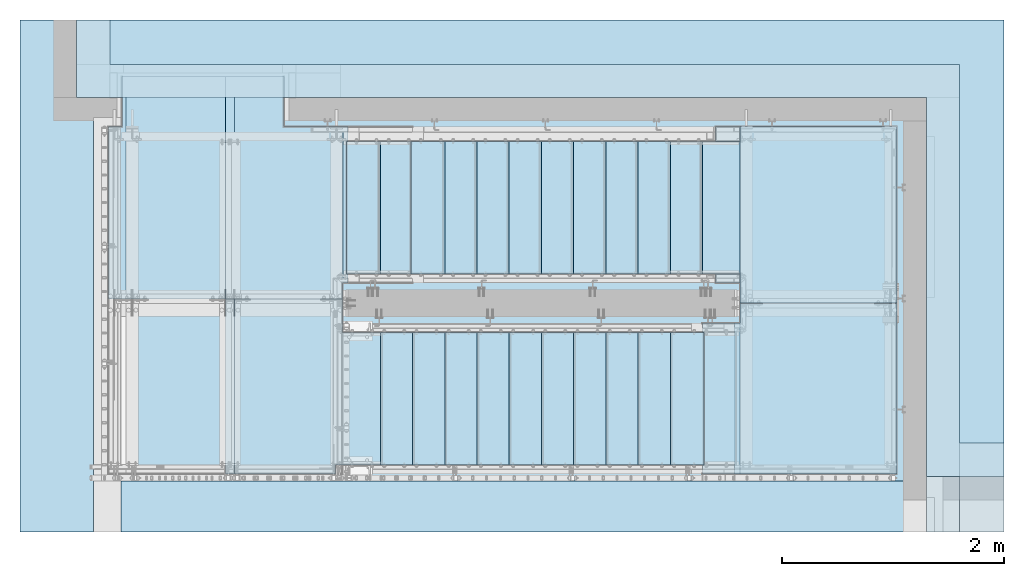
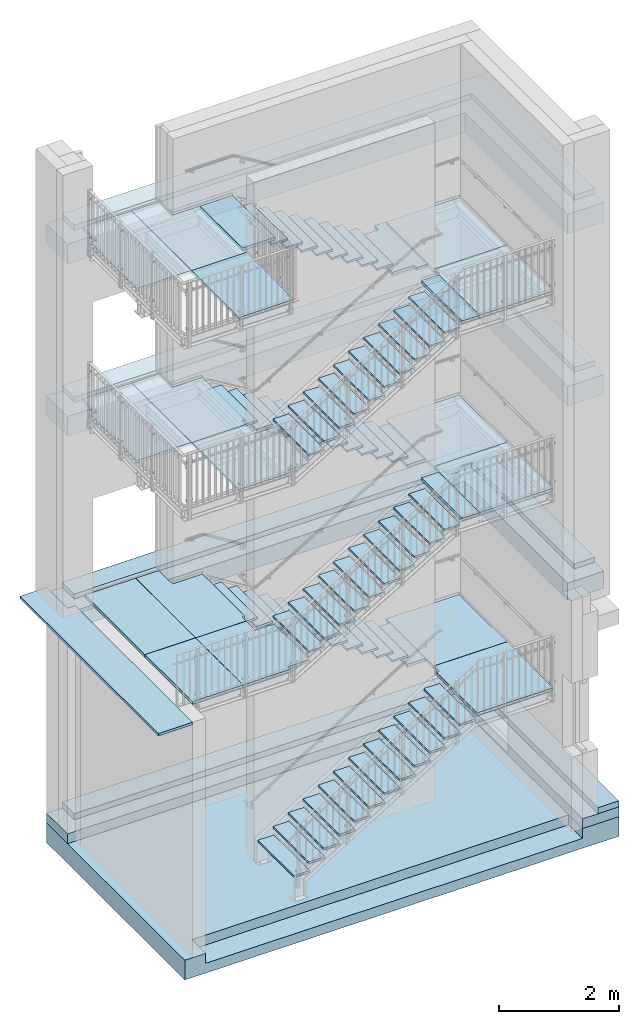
# One storey, part 49 of 410: 84 plates, 10 slabs, 16 openings.
"""IFC2X3 building model written with IfcOpenShell, lengths in millimetres."""

from ifc_helpers import new_model, entity, si_unit, converted_unit, frame, origin, origin_with_axes, place, context, project, spatial, polyline, outline, extrude, material, layer, layer_set, element, save


model = new_model("IFC2X3")

# Units and contexts
model_context = context("Model", 3, precision=1e-09, world=origin_with_axes())
ifc_project = project(units=[si_unit("LENGTHUNIT", "METRE", prefix="MILLI"), si_unit("AREAUNIT", "SQUARE_METRE"), si_unit("VOLUMEUNIT", "CUBIC_METRE"), converted_unit("PLANEANGLEUNIT", "DEGREE", entity("IfcPlaneAngleMeasure", 0.01745329), si_unit("PLANEANGLEUNIT", "RADIAN"), dimensions=[0, 0, 0, 0, 0, 0, 0])], contexts=[model_context])

# Site, building, storey
site_placement = place(None, origin_with_axes())
site = spatial("IfcSite", under=ifc_project, at=site_placement, Name="mKR Teilneubau & Sanierung BA1 - Ostfildern", CompositionType="ELEMENT")
building_placement = place(site_placement, origin_with_axes())
building = spatial("IfcBuilding", under=site, at=building_placement, Name="Struktur 1", CompositionType="ELEMENT")
storey_placement = place(building_placement, origin_with_axes())
storey = spatial("IfcBuildingStorey", under=building, at=storey_placement, Name="Default Storey", CompositionType="ELEMENT", Elevation=0.0)

# Plates
ifc_material_1 = material(Name="S235JR")
ifc_layer_1 = layer(ifc_material_1, 40.0)
ifc_layer_set_1 = layer_set([ifc_layer_1], Name="S235JR")
for number, where, z_axis, x_axis, name in (
    (1, (-697.5, 17839.999999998, 7110.0), (0.0, 0.0, 1.0), (0.0, -1.0, 0.0), "Grate_Step#1"),
    (2, (-407.5, 17839.999999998, 6935.0), (0.0, 0.0, 1.0), (0.0, -1.0, 0.0), "Grate_Step#1"),
    (3, (-117.5, 17839.999999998, 6760.0), (0.0, 0.0, 1.0), (0.0, -1.0, 0.0), "Grate_Step#1"),
    (4, (172.5, 17839.999999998, 6585.0), (0.0, 0.0, 1.0), (0.0, -1.0, 0.0), "Grate_Step#1"),
    (5, (462.5, 17839.999999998, 6410.0), (0.0, 0.0, 1.0), (0.0, -1.0, 0.0), "Grate_Step#1"),
    (6, (752.5, 17839.999999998, 6235.0), (0.0, 0.0, 1.0), (0.0, -1.0, 0.0), "Grate_Step#1"),
    (7, (1042.5, 17839.999999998, 6060.0), (0.0, 0.0, 1.0), (0.0, -1.0, 0.0), "Grate_Step#1"),
    (8, (1332.5, 17839.999999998, 2046.956522), (0.0, 0.0, 1.0), (0.0, -1.0, 0.0), "Grate_Step#1"),
    (9, (1042.5, 17839.999999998, 2220.8695655), (0.0, 0.0, 1.0), (0.0, -1.0, 0.0), "Grate_Step#1"),
    (10, (752.5, 17839.999999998, 2394.782609), (0.0, 0.0, 1.0), (0.0, -1.0, 0.0), "Grate_Step#1"),
    (11, (462.5, 17839.999999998, 2568.6956525), (0.0, 0.0, 1.0), (0.0, -1.0, 0.0), "Grate_Step#1"),
    (12, (172.5, 17839.999999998, 2742.608696), (0.0, 0.0, 1.0), (0.0, -1.0, 0.0), "Grate_Step#1"),
    (13, (-117.5, 17839.999999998, 2916.5217395), (0.0, 0.0, 1.0), (0.0, -1.0, 0.0), "Grate_Step#1"),
    (14, (-407.5, 17839.999999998, 3090.434783), (0.0, 0.0, 1.0), (0.0, -1.0, 0.0), "Grate_Step#1"),
    (15, (-697.5, 17839.999999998, 3264.3478265), (0.0, 0.0, 1.0), (0.0, -1.0, 0.0), "Grate_Step#1"),
    (16, (-987.5, 17839.999999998, 3438.26087), (0.0, 0.0, 1.0), (0.0, -1.0, 0.0), "Grate_Step#1"),
    (17, (-1277.5, 17839.999999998, 3612.1739135), (0.0, 0.0, 1.0), (0.0, -1.0, 0.0), "Grate_Step#1"),
    (18, (-1567.5, 17839.999999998, 3786.086957), (0.0, 0.0, 1.0), (0.0, -1.0, 0.0), "Grate_Step#1"),
    (19, (1332.5, 17839.999999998, -2006.8), (0.0, 0.0, 1.0), (0.0, -1.0, 0.0), "Grate_Step#1"),
    (20, (1042.5, 17839.999999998, -1828.0), (0.0, 0.0, 1.0), (0.0, -1.0, 0.0), "Grate_Step#1"),
    (21, (752.5, 17839.999999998, -1649.2), (0.0, 0.0, 1.0), (0.0, -1.0, 0.0), "Grate_Step#1"),
    (22, (462.5, 17839.999999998, -1470.4), (0.0, 0.0, 1.0), (0.0, -1.0, 0.0), "Grate_Step#1"),
    (23, (172.5, 17839.999999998, -1291.6), (0.0, 0.0, 1.0), (0.0, -1.0, 0.0), "Grate_Step#1"),
    (24, (-117.5, 17839.999999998, -1112.8), (0.0, 0.0, 1.0), (0.0, -1.0, 0.0), "Grate_Step#1"),
    (25, (-407.5, 17839.999999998, -934.0), (0.0, 0.0, 1.0), (0.0, -1.0, 0.0), "Grate_Step#1"),
    (26, (-697.5, 17839.999999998, -755.2), (0.0, 0.0, 1.0), (0.0, -1.0, 0.0), "Grate_Step#1"),
    (27, (-987.5, 17839.999999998, -576.4), (0.0, 0.0, 1.0), (0.0, -1.0, 0.0), "Grate_Step#1"),
    (28, (-1277.5, 17839.999999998, -397.6), (0.0, 0.0, 1.0), (0.0, -1.0, 0.0), "Grate_Step#1"),
    (29, (-1567.5, 17839.999999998, -218.8), (0.0, 0.0, 1.0), (0.0, -1.0, 0.0), "Grate_Step#1"),
    (30, (-1262.5, 16119.999999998, 4135.0), (0.0, 0.0, 1.0), (0.0, 1.0, 0.0), "Grate_Step#1"),
    (31, (-1262.5, 16119.999999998, 133.9130435), (0.0, 0.0, 1.0), (0.0, 1.0, 0.0), "Grate_Step#1"),
    (32, (-1552.5, 16119.999999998, -4331.2), (0.0, 0.0, 1.0), (0.0, 1.0, 0.0), "Grate_Step#1"),
    (33, (-1262.5, 16119.999999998, -4152.4), (0.0, 0.0, 1.0), (0.0, 1.0, 0.0), "Grate_Step#1"),
    (34, (-972.5, 16119.999999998, -3973.6), (0.0, 0.0, 1.0), (0.0, 1.0, 0.0), "Grate_Step#1"),
    (35, (-682.5, 16119.999999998, -3794.8), (0.0, 0.0, 1.0), (0.0, 1.0, 0.0), "Grate_Step#1"),
    (36, (-392.5, 16119.999999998, -3616.0), (0.0, 0.0, 1.0), (0.0, 1.0, 0.0), "Grate_Step#1"),
    (37, (-102.5, 16119.999999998, -3437.2), (0.0, 0.0, 1.0), (0.0, 1.0, 0.0), "Grate_Step#1"),
    (38, (187.5, 16119.999999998, -3258.4), (0.0, 0.0, 1.0), (0.0, 1.0, 0.0), "Grate_Step#1"),
    (39, (477.5, 16119.999999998, -3079.6), (0.0, 0.0, 1.0), (0.0, 1.0, 0.0), "Grate_Step#1"),
    (40, (767.5, 16119.999999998, -2900.8), (0.0, 0.0, 1.0), (0.0, 1.0, 0.0), "Grate_Step#1"),
    (41, (1057.5, 16119.999999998, -2722.0), (0.0, 0.0, 1.0), (0.0, 1.0, 0.0), "Grate_Step#1"),
    (42, (1347.5, 16119.999999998, -2543.2), (0.0, 0.0, 1.0), (0.0, 1.0, 0.0), "Grate_Step#1"),
    (43, (1637.5, 16119.999999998, -2364.4), (0.0, 0.0, 1.0), (0.0, 1.0, 0.0), "Grate_Step#1"),
    (44, (-972.5, 16119.999999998, 307.826087), (0.0, 0.0, 1.0), (0.0, 1.0, 0.0), "Grate_Step#1"),
    (45, (-682.5, 16119.999999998, 481.7391305), (0.0, 0.0, 1.0), (0.0, 1.0, 0.0), "Grate_Step#1"),
    (46, (-392.5, 16119.999999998, 655.652174), (0.0, 0.0, 1.0), (0.0, 1.0, 0.0), "Grate_Step#1"),
    (47, (-102.5, 16119.999999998, 829.5652175), (0.0, 0.0, 1.0), (0.0, 1.0, 0.0), "Grate_Step#1"),
    (48, (187.5, 16119.999999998, 1003.478261), (0.0, 0.0, 1.0), (0.0, 1.0, 0.0), "Grate_Step#1"),
    (49, (477.5, 16119.999999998, 1177.3913045), (0.0, 0.0, 1.0), (0.0, 1.0, 0.0), "Grate_Step#1"),
    (50, (767.5, 16119.999999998, 1351.304348), (0.0, 0.0, 1.0), (0.0, 1.0, 0.0), "Grate_Step#1"),
    (51, (1057.5, 16119.999999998, 1525.2173915), (0.0, 0.0, 1.0), (0.0, 1.0, 0.0), "Grate_Step#1"),
    (52, (1347.5, 16119.999999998, 1699.130435), (0.0, 0.0, 1.0), (0.0, 1.0, 0.0), "Grate_Step#1"),
    (53, (-972.5, 16119.999999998, 4310.0), (0.0, 0.0, 1.0), (0.0, 1.0, 0.0), "Grate_Step#1"),
    (54, (-682.5, 16119.999999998, 4485.0), (0.0, 0.0, 1.0), (0.0, 1.0, 0.0), "Grate_Step#1"),
    (55, (-392.5, 16119.999999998, 4660.0), (0.0, 0.0, 1.0), (0.0, 1.0, 0.0), "Grate_Step#1"),
    (56, (-102.5, 16119.999999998, 4835.0), (0.0, 0.0, 1.0), (0.0, 1.0, 0.0), "Grate_Step#1"),
    (57, (187.5, 16119.999999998, 5010.0), (0.0, 0.0, 1.0), (0.0, 1.0, 0.0), "Grate_Step#1"),
    (58, (477.5, 16119.999999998, 5185.0), (0.0, 0.0, 1.0), (0.0, 1.0, 0.0), "Grate_Step#1"),
    (59, (767.5, 16119.999999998, 5360.0), (0.0, 0.0, 1.0), (0.0, 1.0, 0.0), "Grate_Step#1"),
    (60, (1057.5, 16119.999999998, 5535.0), (0.0, 0.0, 1.0), (0.0, 1.0, 0.0), "Grate_Step#1"),
    (61, (1347.5, 16119.999999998, 5710.0), (0.0, 0.0, 1.0), (0.0, 1.0, 0.0), "Grate_Step#1"),
):
    element("IfcPlate", number, at=place(None, frame(where, z_axis=z_axis, x_axis=x_axis)), inside=storey, material=ifc_layer_set_1, Name=name, ObjectType="Grate_Step#1", context=model_context, shape_type="SweptSolid", body=[
        extrude(outline(polyline([(-597.0, -152.5), (597.0, -152.5), (597.0, 152.5), (-597.0, 152.5), (-597.0, -152.5)])), origin_with_axes(), (0.0, 0.0, 1.0), 40.0),
    ])
ifc_layer_2 = layer(ifc_material_1, 60.0)
ifc_layer_set_2 = layer_set([ifc_layer_2], Name="S235JR")
plate_1_placement = place(None, frame((2082.502202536, 16808.000000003, 1853.0434785), z_axis=(0.0, 0.0, 1.0), x_axis=(-1.0, 0.0, 0.0)))
element("IfcPlate", 62, at=plate_1_placement, inside=storey, material=ifc_layer_set_2, Name="Grating", ObjectType="Grating", context=model_context, shape_type="SweptSolid", body=[
    extrude(outline(polyline([(257.50073415, -1761.999999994), (257.50073415, -172.999999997), (-1152.49926585, -172.999999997), (-1152.49926585, -1761.999999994), (257.50073415, -1761.999999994)])), origin_with_axes(), (0.0, 0.0, 1.0), 60.0),
])
plate_2_placement = place(None, frame((2082.502202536, 16808.000000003, 1853.0434785), z_axis=(0.0, 0.0, 1.0), x_axis=(-1.0, 0.0, 0.0)))
element("IfcPlate", 63, at=plate_2_placement, inside=storey, material=ifc_layer_set_2, Name="Grating", ObjectType="Grating", context=model_context, shape_type="SweptSolid", body=[
    extrude(outline(polyline([(259.50073415, -1629.999999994), (612.502202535, -1629.999999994), (612.502202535, -433.999999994), (259.50073415, -433.999999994), (259.50073415, -1629.999999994)])), origin_with_axes(), (0.0, 0.0, 1.0), 60.0),
])
plate_3_placement = place(None, frame((2082.502202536, 16808.000000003, 5865.0), z_axis=(0.0, 0.0, 1.0), x_axis=(-1.0, 0.0, 0.0)))
element("IfcPlate", 64, at=plate_3_placement, inside=storey, material=ifc_layer_set_2, Name="Grating", ObjectType="Grating", context=model_context, shape_type="SweptSolid", body=[
    extrude(outline(polyline([(257.50073415, -1761.999999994), (257.50073415, -172.999999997), (-1152.49926585, -172.999999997), (-1152.49926585, -1761.999999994), (257.50073415, -1761.999999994)])), origin_with_axes(), (0.0, 0.0, 1.0), 60.0),
])

# Plate, openings
plate_4_placement = place(None, frame((2082.502202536, 16808.000000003, 5865.0), z_axis=(0.0, 0.0, 1.0), x_axis=(-1.0, 0.0, 0.0)))
plate_4 = element("IfcPlate", 65, at=plate_4_placement, inside=storey, material=ifc_layer_set_2, Name="Grating", ObjectType="Grating", context=model_context, shape_type="SweptSolid", body=[
    extrude(outline(polyline([(259.50073415, -1761.999999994), (902.502202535, -1761.999999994), (902.502202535, -351.999999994), (259.50073415, -351.999999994), (259.50073415, -1761.999999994)])), origin_with_axes(), (0.0, 0.0, 1.0), 60.0),
])
opening_1_placement = place(plate_4_placement, frame((0.0, 0.0, 60.1), z_axis=(0.0, 0.0, -1.0), x_axis=(0.0, -1.0, 0.0)))
element("IfcOpeningElement", 66, at=opening_1_placement, cuts=plate_4, ObjectType="Opening", context=model_context, shape_type="SweptSolid", body=[
    extrude(outline(polyline([(1629.998999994, -1022.709062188), (1985.312287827, -1022.709062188), (1985.312287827, -479.49973415), (1629.998999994, -479.49973415), (1629.998999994, -1022.709062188)])), origin(), (0.0, 0.0, 1.0), 60.2),
])
opening_2_placement = place(plate_4_placement, frame((0.0, 0.0, 60.1), z_axis=(0.0, 0.0, -1.0), x_axis=(0.0, -1.0, 0.0)))
element("IfcOpeningElement", 67, at=opening_2_placement, cuts=plate_4, ObjectType="Opening", context=model_context, shape_type="SweptSolid", body=[
    extrude(outline(polyline([(279.276158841, -1009.21293663), (434.000999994, -1009.21293663), (434.000999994, -479.49973415), (279.276158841, -479.49973415), (279.276158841, -1009.21293663)])), origin(), (0.0, 0.0, 1.0), 60.2),
])

# Plates
plate_5_placement = place(None, frame((2082.502202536, 16808.000000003, 5865.0), z_axis=(0.0, 0.0, 1.0), x_axis=(-1.0, 0.0, 0.0)))
element("IfcPlate", 68, at=plate_5_placement, inside=storey, material=ifc_layer_set_2, Name="Grating", ObjectType="Grating", context=model_context, shape_type="SweptSolid", body=[
    extrude(outline(polyline([(257.50073415, -170.999999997), (257.50073415, 1368.000000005), (-1152.49926585, 1368.000000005), (-1152.49926585, -170.999999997), (257.50073415, -170.999999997)])), origin_with_axes(), (0.0, 0.0, 1.0), 60.0),
])
plate_6_placement = place(None, frame((2082.502202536, 16808.000000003, 5865.0), z_axis=(0.0, 0.0, 1.0), x_axis=(-1.0, 0.0, 0.0)))
element("IfcPlate", 69, at=plate_6_placement, inside=storey, material=ifc_layer_set_2, Name="Grating", ObjectType="Grating", context=model_context, shape_type="SweptSolid", body=[
    extrude(outline(polyline([(259.50073415, 8.000000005), (597.502202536, 8.000000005), (597.502202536, 1368.000000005), (259.50073415, 1368.000000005), (259.50073415, 8.000000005)])), origin_with_axes(), (0.0, 0.0, 1.0), 60.0),
])
plate_7_placement = place(None, frame((-2552.49926585, 17229.999999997, 3940.0), z_axis=(0.0, 0.0, 1.0), x_axis=(1.0, 0.0, 0.0)))
element("IfcPlate", 70, at=plate_7_placement, inside=storey, material=ifc_layer_set_2, Name="Grating", ObjectType="Grating", context=model_context, shape_type="SweptSolid", body=[
    extrude(outline(polyline([(-256.49926585, -1789.999999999), (732.449155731, -1789.999999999), (732.449155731, -1707.998999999), (1152.49926585, -1707.998999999), (1152.49926585, -512.000999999), (797.49973415, -512.000999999), (797.49973415, -211.999999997), (-256.49926585, -211.999999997), (-256.49926585, -1789.999999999)])), origin_with_axes(), (0.0, 0.0, 1.0), 60.0),
])
plate_8_placement = place(None, frame((-2552.49926585, 17229.999999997, 3940.0), z_axis=(0.0, 0.0, 1.0), x_axis=(1.0, 0.0, 0.0)))
element("IfcPlate", 71, at=plate_8_placement, inside=storey, material=ifc_layer_set_2, Name="Grating", ObjectType="Grating", context=model_context, shape_type="SweptSolid", body=[
    extrude(outline(polyline([(-256.49926585, 1789.999999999), (-256.49926585, -209.999999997), (797.49973415, -209.999999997), (797.49973415, -69.998999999), (847.49926585, -69.998999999), (847.49926585, 1339.998999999), (270.00073415, 1339.998999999), (270.00073415, 1789.999999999), (-256.49926585, 1789.999999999)])), origin_with_axes(), (0.0, 0.0, 1.0), 60.0),
])

# Plate, opening
plate_9_placement = place(None, frame((-2712.49926585, 17229.999999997, 3940.0), z_axis=(0.0, 0.0, 1.0), x_axis=(1.0, 0.0, 0.0)))
plate_9 = element("IfcPlate", 72, at=plate_9_placement, inside=storey, material=ifc_layer_set_2, Name="Grating", ObjectType="Grating", context=model_context, shape_type="SweptSolid", body=[
    extrude(outline(polyline([(-98.49926585, 1789.999999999), (-1152.49926585, 1789.999999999), (-1152.49926585, -209.999999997), (-98.49926585, -209.999999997), (-98.49926585, 1789.999999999)])), origin_with_axes(), (0.0, 0.0, 1.0), 60.0),
])
opening_3_placement = place(plate_9_placement, frame((0.0, 0.0, 60.1), z_axis=(0.0, 0.0, -1.0), x_axis=(0.0, 1.0, 0.0)))
element("IfcOpeningElement", 73, at=opening_3_placement, cuts=plate_9, ObjectType="Opening", context=model_context, shape_type="SweptSolid", body=[
    extrude(outline(polyline([(1340.000468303, -1378.217340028), (2061.623065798, -1378.217340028), (2061.623065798, -1029.99826585), (1340.000468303, -1029.99826585), (1340.000468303, -1378.217340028)])), origin(), (0.0, 0.0, 1.0), 60.2),
])

plate_10_placement = place(None, frame((-2712.49926585, 17229.999999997, 7440.0), z_axis=(0.0, 0.0, 1.0), x_axis=(1.0, 0.0, 0.0)))
plate_10 = element("IfcPlate", 74, at=plate_10_placement, inside=storey, material=ifc_layer_set_2, Name="Grating", ObjectType="Grating", context=model_context, shape_type="SweptSolid", body=[
    extrude(outline(polyline([(-98.49926585, 1789.999999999), (-1152.49926585, 1789.999999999), (-1152.49926585, -209.999999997), (-98.49926585, -209.999999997), (-98.49926585, 1789.999999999)])), origin_with_axes(), (0.0, 0.0, 1.0), 60.0),
])
opening_4_placement = place(plate_10_placement, frame((0.0, 0.0, 60.1), z_axis=(0.0, 0.0, -1.0), x_axis=(0.0, 1.0, 0.0)))
element("IfcOpeningElement", 75, at=opening_4_placement, cuts=plate_10, ObjectType="Opening", context=model_context, shape_type="SweptSolid", body=[
    extrude(outline(polyline([(1339.998999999, -1392.179145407), (1961.201520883, -1392.179145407), (1961.201520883, -1030.00323415), (1339.998999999, -1030.00323415), (1339.998999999, -1392.179145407)])), origin(), (0.0, 0.0, 1.0), 60.2),
])

# Plate
plate_11_placement = place(None, frame((-1656.49926585, 17229.999999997, 7440.0), z_axis=(0.0, 0.0, 1.0), x_axis=(1.0, 0.0, 0.0)))
element("IfcPlate", 76, at=plate_11_placement, inside=storey, material=ifc_layer_set_2, Name="Grating", ObjectType="Grating", context=model_context, shape_type="SweptSolid", body=[
    extrude(outline(polyline([(-98.49926585, -1789.999999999), (-98.49926585, -211.999999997), (-1152.49926585, -211.999999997), (-1152.49926585, -1789.999999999), (-98.49926585, -1789.999999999)])), origin_with_axes(), (0.0, 0.0, 1.0), 60.0),
])

# Plate, opening
plate_12_placement = place(None, frame((-1656.49926585, 17229.999999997, 7440.0), z_axis=(0.0, 0.0, 1.0), x_axis=(1.0, 0.0, 0.0)))
plate_12 = element("IfcPlate", 77, at=plate_12_placement, inside=storey, material=ifc_layer_set_2, Name="Grating", ObjectType="Grating", context=model_context, shape_type="SweptSolid", body=[
    extrude(outline(polyline([(-98.49926585, 1789.999999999), (-1152.49926585, 1789.999999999), (-1152.49926585, -209.999999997), (-98.49926585, -209.999999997), (-98.49926585, 1789.999999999)])), origin_with_axes(), (0.0, 0.0, 1.0), 60.0),
])
opening_5_placement = place(plate_12_placement, frame((0.0, 0.0, 60.1), z_axis=(0.0, 0.0, -1.0), x_axis=(0.0, 1.0, 0.0)))
element("IfcOpeningElement", 78, at=opening_5_placement, cuts=plate_12, ObjectType="Opening", context=model_context, shape_type="SweptSolid", body=[
    extrude(outline(polyline([(1339.998999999, -625.998113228), (2040.753713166, -625.998113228), (2040.753713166, 208.909551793), (1339.998999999, 208.909551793), (1339.998999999, -625.998113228)])), origin(), (0.0, 0.0, 1.0), 60.2),
])

# Plates
plate_13_placement = place(None, frame((-600.49926585, 17229.999999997, 7440.0), z_axis=(0.0, 0.0, 1.0), x_axis=(1.0, 0.0, 0.0)))
element("IfcPlate", 79, at=plate_13_placement, inside=storey, material=ifc_layer_set_2, Name="Grating", ObjectType="Grating", context=model_context, shape_type="SweptSolid", body=[
    extrude(outline(polyline([(-524.50073415, 1340.000000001), (-1152.49926585, 1340.000000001), (-1152.49926585, -69.999999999), (-524.50073415, -69.999999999), (-524.50073415, 1340.000000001)])), origin_with_axes(), (0.0, 0.0, 1.0), 60.0),
])
plate_14_placement = place(None, frame((-987.5, 17839.999999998, 7285.0), z_axis=(0.0, 0.0, 1.0), x_axis=(0.0, -1.0, 0.0)))
element("IfcPlate", 80, at=plate_14_placement, inside=storey, material=ifc_layer_set_1, Name="Grate_Step#1", ObjectType="Grate_Step#1", context=model_context, shape_type="SweptSolid", body=[
    extrude(outline(polyline([(-597.0, -152.5), (597.0, -152.5), (597.0, 152.5), (-597.0, 152.5), (-597.0, -152.5)])), origin_with_axes(), (0.0, 0.0, 1.0), 40.0),
])
plate_15_placement = place(None, frame((-2552.49926585, 17229.999999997, -60.0), z_axis=(0.0, 0.0, 1.0), x_axis=(1.0, 0.0, 0.0)))
element("IfcPlate", 81, at=plate_15_placement, inside=storey, material=ifc_layer_set_2, Name="Grating", ObjectType="Grating", context=model_context, shape_type="SweptSolid", body=[
    extrude(outline(polyline([(-178.49926585, -1789.999999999), (-178.49926585, -211.999999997), (-1152.49926585, -211.999999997), (-1152.49926585, -1789.999999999), (-178.49926585, -1789.999999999)])), origin_with_axes(), (0.0, 0.0, 1.0), 60.0),
])
plate_16_placement = place(None, frame((-2552.49926585, 17229.999999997, -60.0), z_axis=(0.0, 0.0, 1.0), x_axis=(1.0, 0.0, 0.0)))
element("IfcPlate", 82, at=plate_16_placement, inside=storey, material=ifc_layer_set_2, Name="Grating", ObjectType="Grating", context=model_context, shape_type="SweptSolid", body=[
    extrude(outline(polyline([(-176.49926585, -1789.999999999), (732.449155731, -1789.999999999), (732.449155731, -1707.998999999), (1152.49926585, -1707.998999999), (1152.49926585, -512.000999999), (797.49973415, -512.000999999), (797.49973415, -211.999999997), (-176.49926585, -211.999999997), (-176.49926585, -1789.999999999)])), origin_with_axes(), (0.0, 0.0, 1.0), 60.0),
])
plate_17_placement = place(None, frame((-2552.49926585, 17229.999999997, -60.0), z_axis=(0.0, 0.0, 1.0), x_axis=(1.0, 0.0, 0.0)))
element("IfcPlate", 83, at=plate_17_placement, inside=storey, material=ifc_layer_set_2, Name="Grating", ObjectType="Grating", context=model_context, shape_type="SweptSolid", body=[
    extrude(outline(polyline([(-176.49926585, 1789.999999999), (-176.49926585, -209.999999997), (797.49973415, -209.999999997), (797.49973415, -69.998999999), (847.49926585, -69.998999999), (847.49926585, 1339.998999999), (270.00073415, 1339.998999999), (270.00073415, 1789.999999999), (-176.49926585, 1789.999999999)])), origin_with_axes(), (0.0, 0.0, 1.0), 60.0),
])
plate_18_placement = place(None, frame((-2552.49926585, 17229.999999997, -60.0), z_axis=(0.0, 0.0, 1.0), x_axis=(1.0, 0.0, 0.0)))
element("IfcPlate", 84, at=plate_18_placement, inside=storey, material=ifc_layer_set_2, Name="Grating", ObjectType="Grating", context=model_context, shape_type="SweptSolid", body=[
    extrude(outline(polyline([(-178.49926585, 1789.999999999), (-1152.49926585, 1789.999999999), (-1152.49926585, -209.999999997), (-178.49926585, -209.999999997), (-178.49926585, 1789.999999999)])), origin_with_axes(), (0.0, 0.0, 1.0), 60.0),
])

# Plate, opening
plate_19_placement = place(None, frame((2082.502202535, 16808.000000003, -2205.6), z_axis=(0.0, 0.0, 1.0), x_axis=(-1.0, 0.0, 0.0)))
plate_19 = element("IfcPlate", 85, at=plate_19_placement, inside=storey, material=ifc_layer_set_2, Name="Grating", ObjectType="Grating", context=model_context, shape_type="SweptSolid", body=[
    extrude(outline(polyline([(307.502202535, -170.999999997), (307.502202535, 1368.000000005), (-1152.49926585, 1368.000000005), (-1152.49926585, -170.999999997), (307.502202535, -170.999999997)])), origin_with_axes(), (0.0, 0.0, 1.0), 60.0),
])
opening_6_placement = place(plate_19_placement, frame((0.0, 0.0, -0.1), z_axis=(0.0, 0.0, 1.0), x_axis=(-1.0, 0.0, 0.0)))
element("IfcOpeningElement", 86, at=opening_6_placement, cuts=plate_19, ObjectType="Opening", context=model_context, shape_type="SweptSolid", body=[
    extrude(outline(polyline([(-363.879877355, -8.001000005), (-257.49873415, -8.001000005), (-257.49873415, 220.359362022), (-363.879877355, 220.359362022), (-363.879877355, -8.001000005)])), origin(), (0.0, 0.0, 1.0), 60.2),
])

# Plates
plate_20_placement = place(None, frame((2082.502202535, 16808.000000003, -2205.6), z_axis=(0.0, 0.0, 1.0), x_axis=(-1.0, 0.0, 0.0)))
element("IfcPlate", 87, at=plate_20_placement, inside=storey, material=ifc_layer_set_2, Name="Grating", ObjectType="Grating", context=model_context, shape_type="SweptSolid", body=[
    extrude(outline(polyline([(257.50073415, -1761.999999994), (257.50073415, -172.999999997), (-1152.49926585, -172.999999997), (-1152.49926585, -1761.999999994), (257.50073415, -1761.999999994)])), origin_with_axes(), (0.0, 0.0, 1.0), 60.0),
])
plate_21_placement = place(None, frame((2082.502202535, 16808.000000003, -2205.6), z_axis=(0.0, 0.0, 1.0), x_axis=(-1.0, 0.0, 0.0)))
element("IfcPlate", 88, at=plate_21_placement, inside=storey, material=ifc_layer_set_2, Name="Grating", ObjectType="Grating", context=model_context, shape_type="SweptSolid", body=[
    extrude(outline(polyline([(259.50073415, -1629.999999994), (612.502202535, -1629.999999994), (612.502202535, -433.999999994), (259.50073415, -433.999999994), (259.50073415, -1629.999999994)])), origin_with_axes(), (0.0, 0.0, 1.0), 60.0),
])
plate_22_placement = place(None, frame((2082.502202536, 16808.000000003, 1853.0434785), z_axis=(0.0, 0.0, 1.0), x_axis=(-1.0, 0.0, 0.0)))
element("IfcPlate", 89, at=plate_22_placement, inside=storey, material=ifc_layer_set_2, Name="Grating", ObjectType="Grating", context=model_context, shape_type="SweptSolid", body=[
    extrude(outline(polyline([(257.50073415, -170.999999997), (257.50073415, 1368.000000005), (-1152.49926585, 1368.000000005), (-1152.49926585, -170.999999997), (257.50073415, -170.999999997)])), origin_with_axes(), (0.0, 0.0, 1.0), 60.0),
])
plate_23_placement = place(None, frame((2082.502202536, 16808.000000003, 1853.0434785), z_axis=(0.0, 0.0, 1.0), x_axis=(-1.0, 0.0, 0.0)))
element("IfcPlate", 90, at=plate_23_placement, inside=storey, material=ifc_layer_set_2, Name="Grating", ObjectType="Grating", context=model_context, shape_type="SweptSolid", body=[
    extrude(outline(polyline([(259.50073415, 8.000000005), (597.502202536, 8.000000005), (597.502202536, 1368.000000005), (259.50073415, 1368.000000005), (259.50073415, 8.000000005)])), origin_with_axes(), (0.0, 0.0, 1.0), 60.0),
])

# Slab, opening
ifc_material_2 = material(Name="C25/30")
ifc_layer_3 = layer(ifc_material_2, 100.0)
ifc_layer_set_3 = layer_set([ifc_layer_3], Name="C25/30")
slab_1_placement = place(None, frame((175.0, 17625.0, -100.0), z_axis=(0.0, 0.0, 1.0), x_axis=(1.0, 0.0, 0.0)))
slab_1 = element("IfcSlab", 91, at=slab_1_placement, inside=storey, material=ifc_layer_set_3, Name="-", ObjectType="-", context=model_context, shape_type="SweptSolid", body=[
    extrude(outline(polyline([(-4025.0, -1905.0), (4025.0, -1905.0), (4025.0, 1905.0), (-4025.0, 1905.0), (-4025.0, -1905.0)])), origin_with_axes(), (0.0, 0.0, 1.0), 100.0),
])
opening_7_placement = place(slab_1_placement, frame((0.0, 0.0, -0.1), z_axis=(0.0, 0.0, 1.0), x_axis=(1.0, 0.0, 0.0)))
element("IfcOpeningElement", 92, at=opening_7_placement, cuts=slab_1, ObjectType="Opening", context=model_context, shape_type="SweptSolid", body=[
    extrude(outline(polyline([(-4616.623808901, -2313.910322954), (3625.001, -2313.910322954), (3625.001, 1505.001), (-4616.623808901, 1505.001), (-4616.623808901, -2313.910322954)])), origin(), (0.0, 0.0, 1.0), 100.2),
])

ifc_layer_4 = layer(ifc_material_2, 400.0)
ifc_layer_set_4 = layer_set([ifc_layer_4], Name="C25/30")
slab_2_placement = place(None, frame((25.0, 17475.0, 3500.0), z_axis=(0.0, 0.0, 1.0), x_axis=(1.0, 0.0, 0.0)))
slab_2 = element("IfcSlab", 93, at=slab_2_placement, inside=storey, material=ifc_layer_set_4, Name="-", ObjectType="-", context=model_context, shape_type="SweptSolid", body=[
    extrude(outline(polyline([(-4175.0, -2055.0), (4175.0, -2055.0), (4175.0, 2055.0), (-4175.0, 2055.0), (-4175.0, -2055.0)])), origin_with_axes(), (0.0, 0.0, 1.0), 400.0),
])
opening_8_placement = place(slab_2_placement, frame((0.0, 0.0, -0.1), z_axis=(0.0, 0.0, 1.0), x_axis=(1.0, 0.0, 0.0)))
element("IfcOpeningElement", 94, at=opening_8_placement, cuts=slab_2, ObjectType="Opening", context=model_context, shape_type="SweptSolid", body=[
    extrude(outline(polyline([(-4798.506588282, -3478.6342421), (3475.001, -3478.6342421), (3475.001, 1355.001), (-4798.506588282, 1355.001), (-4798.506588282, -3478.6342421)])), origin(), (0.0, 0.0, 1.0), 400.2),
])

slab_3_placement = place(None, frame((175.0, 17625.0, 3900.0), z_axis=(0.0, 0.0, 1.0), x_axis=(1.0, 0.0, 0.0)))
slab_3 = element("IfcSlab", 95, at=slab_3_placement, inside=storey, material=ifc_layer_set_3, Name="-", ObjectType="-", context=model_context, shape_type="SweptSolid", body=[
    extrude(outline(polyline([(-4025.0, -1905.0), (4025.0, -1905.0), (4025.0, 1905.0), (-4025.0, 1905.0), (-4025.0, -1905.0)])), origin_with_axes(), (0.0, 0.0, 1.0), 100.0),
])
opening_9_placement = place(slab_3_placement, frame((0.0, 0.0, -0.1), z_axis=(0.0, 0.0, 1.0), x_axis=(1.0, 0.0, 0.0)))
element("IfcOpeningElement", 96, at=opening_9_placement, cuts=slab_3, ObjectType="Opening", context=model_context, shape_type="SweptSolid", body=[
    extrude(outline(polyline([(-4616.623808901, -2313.910322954), (3625.001, -2313.910322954), (3625.001, 1505.001), (-4616.623808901, 1505.001), (-4616.623808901, -2313.910322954)])), origin(), (0.0, 0.0, 1.0), 100.2),
])

slab_4_placement = place(None, frame((25.0, 17475.0, 7000.0), z_axis=(0.0, 0.0, 1.0), x_axis=(1.0, 0.0, 0.0)))
slab_4 = element("IfcSlab", 97, at=slab_4_placement, inside=storey, material=ifc_layer_set_4, Name="-", ObjectType="-", context=model_context, shape_type="SweptSolid", body=[
    extrude(outline(polyline([(-4175.0, -2055.0), (4175.0, -2055.0), (4175.0, 2055.0), (-4175.0, 2055.0), (-4175.0, -2055.0)])), origin_with_axes(), (0.0, 0.0, 1.0), 400.0),
])
opening_10_placement = place(slab_4_placement, frame((0.0, 0.0, -0.1), z_axis=(0.0, 0.0, 1.0), x_axis=(1.0, 0.0, 0.0)))
element("IfcOpeningElement", 98, at=opening_10_placement, cuts=slab_4, ObjectType="Opening", context=model_context, shape_type="SweptSolid", body=[
    extrude(outline(polyline([(-4798.506588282, -3478.6342421), (3475.001, -3478.6342421), (3475.001, 1355.001), (-4798.506588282, 1355.001), (-4798.506588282, -3478.6342421)])), origin(), (0.0, 0.0, 1.0), 400.2),
])

slab_5_placement = place(None, frame((175.0, 17625.0, 7400.0), z_axis=(0.0, 0.0, 1.0), x_axis=(1.0, 0.0, 0.0)))
slab_5 = element("IfcSlab", 99, at=slab_5_placement, inside=storey, material=ifc_layer_set_3, Name="-", ObjectType="-", context=model_context, shape_type="SweptSolid", body=[
    extrude(outline(polyline([(-4025.0, -1905.0), (4025.0, -1905.0), (4025.0, 1905.0), (-4025.0, 1905.0), (-4025.0, -1905.0)])), origin_with_axes(), (0.0, 0.0, 1.0), 100.0),
])
opening_11_placement = place(slab_5_placement, frame((0.0, 0.0, -0.1), z_axis=(0.0, 0.0, 1.0), x_axis=(1.0, 0.0, 0.0)))
element("IfcOpeningElement", 100, at=opening_11_placement, cuts=slab_5, ObjectType="Opening", context=model_context, shape_type="SweptSolid", body=[
    extrude(outline(polyline([(-4616.623808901, -2313.910322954), (3625.001, -2313.910322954), (3625.001, 1505.001), (-4616.623808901, 1505.001), (-4616.623808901, -2313.910322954)])), origin(), (0.0, 0.0, 1.0), 100.2),
])

ifc_layer_5 = layer(ifc_material_2, 200.0)
ifc_layer_set_5 = layer_set([ifc_layer_5], Name="C25/30")
slab_6_placement = place(None, frame((25.0, 17225.0, -4790.0), z_axis=(0.0, 0.0, 1.0), x_axis=(1.0, 0.0, 0.0)))
slab_6 = element("IfcSlab", 101, at=slab_6_placement, inside=storey, material=ifc_layer_set_5, Name="-", ObjectType="-", context=model_context, shape_type="SweptSolid", body=[
    extrude(outline(polyline([(-4175.0, -2305.0), (4175.0, -2305.0), (4175.0, 2305.0), (-4175.0, 2305.0), (-4175.0, -2305.0)])), origin_with_axes(), (0.0, 0.0, 1.0), 200.0),
])
opening_12_placement = place(slab_6_placement, frame((0.0, 0.0, -0.1), z_axis=(0.0, 0.0, 1.0), x_axis=(1.0, 0.0, 0.0)))
element("IfcOpeningElement", 102, at=opening_12_placement, cuts=slab_6, ObjectType="Opening", context=model_context, shape_type="SweptSolid", body=[
    extrude(outline(polyline([(-7856.764099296, -5337.386564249), (3475.001, -5337.386564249), (3475.001, 1605.001), (-7856.764099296, 1605.001), (-7856.764099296, -5337.386564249)])), origin(), (0.0, 0.0, 1.0), 200.2),
])

ifc_layer_6 = layer(ifc_material_2, 120.0)
ifc_layer_set_6 = layer_set([ifc_layer_6], Name="C25/30")
slab_7_placement = place(None, frame((175.0, 17225.0, -4590.0), z_axis=(0.0, 0.0, 1.0), x_axis=(1.0, 0.0, 0.0)))
slab_7 = element("IfcSlab", 103, at=slab_7_placement, inside=storey, material=ifc_layer_set_6, Name="-", ObjectType="-", context=model_context, shape_type="SweptSolid", body=[
    extrude(outline(polyline([(-4025.0, -2305.0), (4025.0, -2305.0), (4025.0, 2305.0), (-4025.0, 2305.0), (-4025.0, -2305.0)])), origin_with_axes(), (0.0, 0.0, 1.0), 120.0),
])
opening_13_placement = place(slab_7_placement, frame((0.0, 0.0, -0.1), z_axis=(0.0, 0.0, 1.0), x_axis=(1.0, 0.0, 0.0)))
element("IfcOpeningElement", 104, at=opening_13_placement, cuts=slab_7, ObjectType="Opening", context=model_context, shape_type="SweptSolid", body=[
    extrude(outline(polyline([(-8064.699482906, -4603.173915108), (3625.001, -4603.173915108), (3625.001, 1905.001), (-8064.699482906, 1905.001), (-8064.699482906, -4603.173915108)])), origin(), (0.0, 0.0, 1.0), 120.2),
])

slab_8_placement = place(None, frame((25.0, 17225.0, -5190.0), z_axis=(0.0, 0.0, 1.0), x_axis=(1.0, 0.0, 0.0)))
slab_8 = element("IfcSlab", 105, at=slab_8_placement, inside=storey, material=ifc_layer_set_4, Name="-", ObjectType="-", context=model_context, shape_type="SweptSolid", body=[
    extrude(outline(polyline([(-4175.0, -2305.0), (4175.0, -2305.0), (4175.0, 2305.0), (-4175.0, 2305.0), (-4175.0, -2305.0)])), origin_with_axes(), (0.0, 0.0, 1.0), 400.0),
])
opening_14_placement = place(slab_8_placement, frame((0.0, 0.0, 200.0), z_axis=(0.0, 0.0, 1.0), x_axis=(1.0, 0.0, 0.0)))
element("IfcOpeningElement", 106, at=opening_14_placement, cuts=slab_8, ObjectType="Opening", context=model_context, shape_type="SweptSolid", body=[
    extrude(outline(polyline([(-3775.001, -2502.087480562), (3475.001, -2502.087480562), (3475.001, -1844.999), (-3775.001, -1844.999), (-3775.001, -2502.087480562)])), origin(), (0.0, 0.0, 1.0), 200.1),
])

ifc_layer_7 = layer(ifc_material_2, 350.0)
ifc_layer_set_7 = layer_set([ifc_layer_7], Name="C25/30")
slab_9_placement = place(None, frame((25.0, 17475.0, -450.0), z_axis=(0.0, 0.0, 1.0), x_axis=(1.0, 0.0, 0.0)))
slab_9 = element("IfcSlab", 107, at=slab_9_placement, inside=storey, material=ifc_layer_set_7, Name="-", ObjectType="-", context=model_context, shape_type="SweptSolid", body=[
    extrude(outline(polyline([(-4175.0, -2055.0), (4175.0, -2055.0), (4175.0, 2055.0), (-4175.0, 2055.0), (-4175.0, -2055.0)])), origin_with_axes(), (0.0, 0.0, 1.0), 350.0),
])
opening_15_placement = place(slab_9_placement, frame((0.0, 0.0, -0.1), z_axis=(0.0, 0.0, 1.0), x_axis=(1.0, 0.0, 0.0)))
element("IfcOpeningElement", 108, at=opening_15_placement, cuts=slab_9, ObjectType="Opening", context=model_context, shape_type="SweptSolid", body=[
    extrude(outline(polyline([(-4798.506588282, -3478.6342421), (3475.001, -3478.6342421), (3475.001, 1355.001), (-4798.506588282, 1355.001), (-4798.506588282, -3478.6342421)])), origin(), (0.0, 0.0, 1.0), 350.2),
])

ifc_layer_8 = layer(ifc_material_2, 50.0)
ifc_layer_set_8 = layer_set([ifc_layer_8], Name="C25/30")
slab_10_placement = place(None, frame((-4330.000296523, 17224.999889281, -50.0), z_axis=(0.0, 0.0, 1.0), x_axis=(1.0, 0.0, 0.0)))
slab_10 = element("IfcSlab", 109, at=slab_10_placement, inside=storey, material=ifc_layer_set_8, Name="-", ObjectType="-", context=model_context, shape_type="SweptSolid", body=[
    extrude(outline(polyline([(-329.999796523, -2304.999889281), (329.999796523, -2304.999889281), (329.999796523, 2304.999889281), (-329.999796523, 2304.999889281), (-329.999796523, -2304.999889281)])), origin_with_axes(), (0.0, 0.0, 1.0), 50.0),
])
opening_16_placement = place(slab_10_placement, frame((0.0, 0.0, -0.1), z_axis=(0.0, 0.0, 1.0), x_axis=(1.0, 0.0, 0.0)))
element("IfcOpeningElement", 110, at=opening_16_placement, cuts=slab_10, ObjectType="Opening", context=model_context, shape_type="SweptSolid", body=[
    extrude(outline(polyline([(179.999296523, 1605.000110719), (1480.453688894, 1605.000110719), (1480.453688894, 3287.787140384), (179.999296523, 3287.787140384), (179.999296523, 1605.000110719)])), origin(), (0.0, 0.0, 1.0), 50.2),
])

save(model, "model.ifc")
